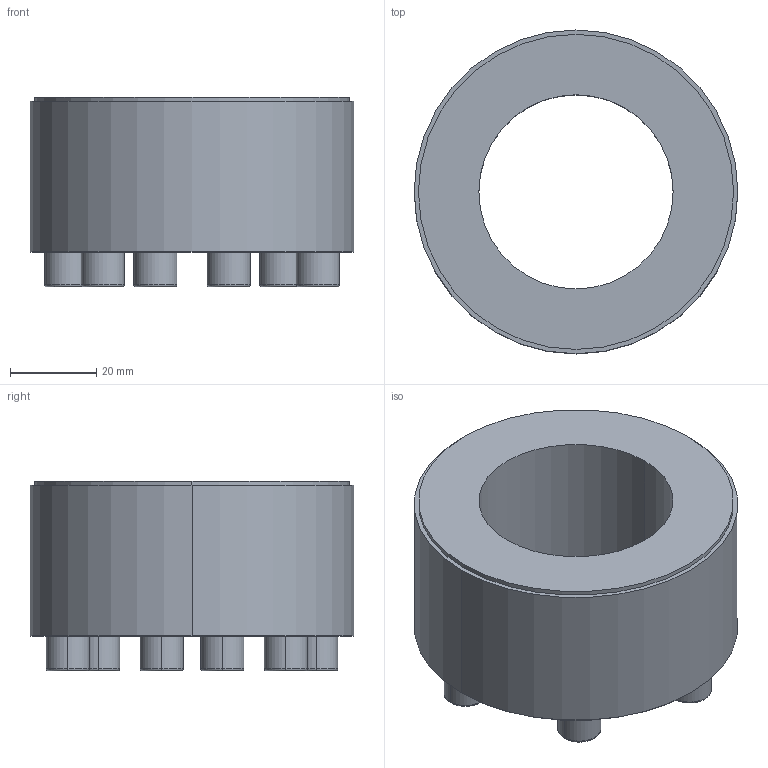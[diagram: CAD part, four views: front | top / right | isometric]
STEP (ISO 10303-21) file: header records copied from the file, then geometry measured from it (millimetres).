
FILE_DESCRIPTION (( 'STEP AP203' ), '1' );
FILE_NAME ('PL-B 45-75.STEP', '2021-10-22T07:48:07', ( '' ), ( '' ), 'SwSTEP 2.0', 'SolidWorks 2018', '' );
FILE_SCHEMA (( 'CONFIG_CONTROL_DESIGN' ));
Length unit declared in the file: millimetre
Products named in the file (1): PL-B 45-75
Bounding box: 75 x 75 x 44 mm (x, y, z)
Volume: 104746.4 mm3; surface area: 21017.1 mm2
Topology: 1 solids, 1 shells, 85 faces, 194 edges, 124 vertices
Faces by surface type: plane 51, cylinder 18, torus 12, cone 4
Entity records: 2465 total; most frequent: DIRECTION 430, CARTESIAN_POINT 404, ORIENTED_EDGE 388, EDGE_CURVE 194, AXIS2_PLACEMENT_3D 150, LINE 130, VECTOR 130, VERTEX_POINT 124
